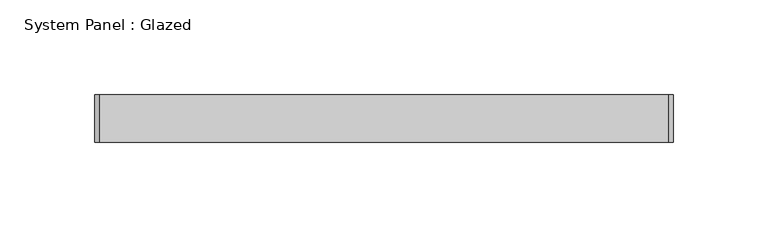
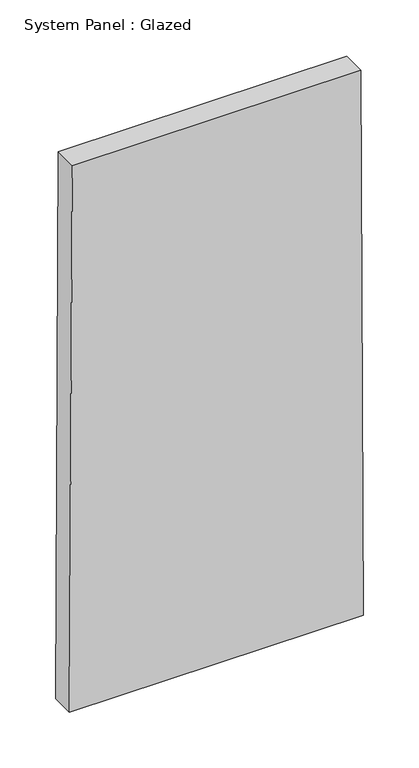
"""IFC4 building model written with IfcOpenShell, lengths in millimetres: plate geometry, System Panel : Glazed."""

from ifc_helpers import new_model, si_unit, frame, origin, place, context, project, spatial, polyline, outline, extrude, source, transform, mapped, element, save


def system_panel_glazed_eb1f5069(model_context):
    return source(origin(), model_context, "Body", "SweptSolid", [
        extrude(outline(polyline([(0.0, -152.8168158), (0.0, 152.8168158), (599.9934084, 150.0043564), (599.9934084, -150.0043564), (0.0, -152.8168158)])), frame((0.0, 24.5, 0.0), z_axis=(0.0, 1.0, 0.0), x_axis=(0.0, 0.0, 1.0)), (0.0, 0.0, 1.0), 25.0),
    ])


if __name__ == "__main__":
    model = new_model("IFC4")
    model_context = context("Model", 3, world=origin())
    ifc_project = project(units=[si_unit("LENGTHUNIT", "METRE", prefix="MILLI")], contexts=[model_context])
    site = spatial("IfcSite", under=ifc_project)
    building = spatial("IfcBuilding", under=site)
    placement = place(None, origin())
    system_panel_glazed_shape = system_panel_glazed_eb1f5069(model_context)
    element("IfcPlate", 1, ObjectType="System Panel : Glazed", at=placement, inside=building, context=model_context, shape_type="MappedRepresentation", body=[
        mapped(system_panel_glazed_shape, transform((0.0, 0.0, 0.0), x_axis=(1.0, 0.0, 0.0), y_axis=(0.0, 1.0, 0.0), z_axis=(0.0, 0.0, 1.0))),
    ])
    save(model, "model.ifc")
